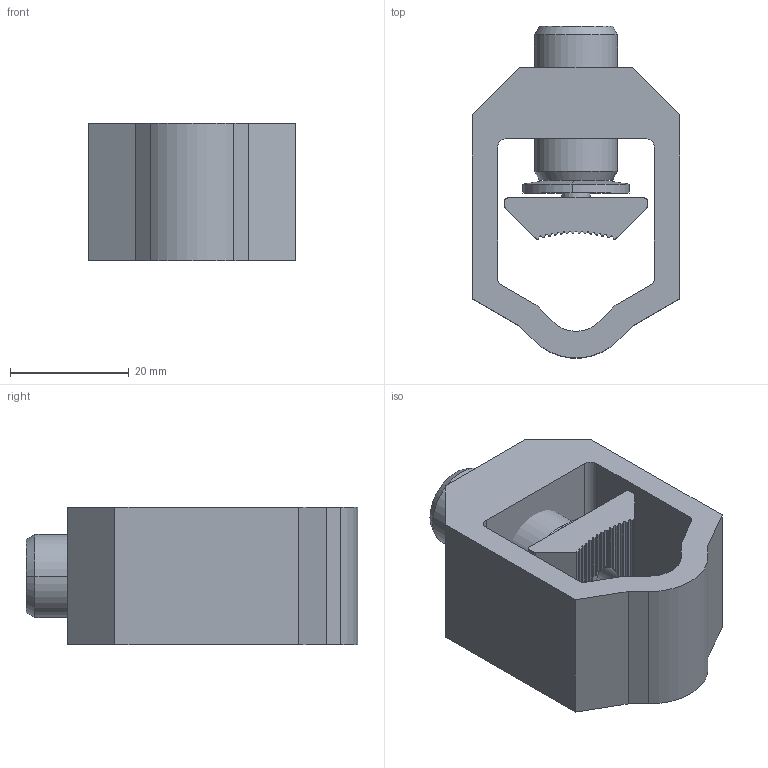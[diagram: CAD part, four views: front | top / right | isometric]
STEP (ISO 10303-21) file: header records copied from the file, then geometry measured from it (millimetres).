
FILE_DESCRIPTION (( 'STEP AP214' ), '1' );
FILE_NAME ('50-240SW.STEP', '2010-03-18T11:06:10', ( '£ukaszC' ), ( '' ), 'SwSTEP 2.0', 'SolidWorks 2008', '' );
FILE_SCHEMA (( 'AUTOMOTIVE_DESIGN' ));
Length unit declared in the file: millimetre
Products named in the file (5): 4.50240SW.01.00.00_4.Gwintowanie; 4.50240SW.03.00.00; 4.50240SW.02.00.00; 4.50240SW.04.00.00; 50-240SW
Assembly tree (4 placements, depth 2):
  50-240SW
    4.50240SW.04.00.00
    4.50240SW.01.00.00_4.Gwintowanie
    4.50240SW.03.00.00
    4.50240SW.02.00.00
Bounding box: 35 x 55.94 x 23.2 mm (x, y, z)
Volume: 22352 mm3; surface area: 11418.9 mm2
Topology: 4 solids, 4 shells, 204 faces, 594 edges, 397 vertices
Faces by surface type: cylinder 110, plane 78, cone 16
Entity records: 7262 total; most frequent: CARTESIAN_POINT 1840, ORIENTED_EDGE 1184, DIRECTION 1022, EDGE_CURVE 592, VERTEX_POINT 397, AXIS2_PLACEMENT_3D 383, VECTOR 256, LINE 256
